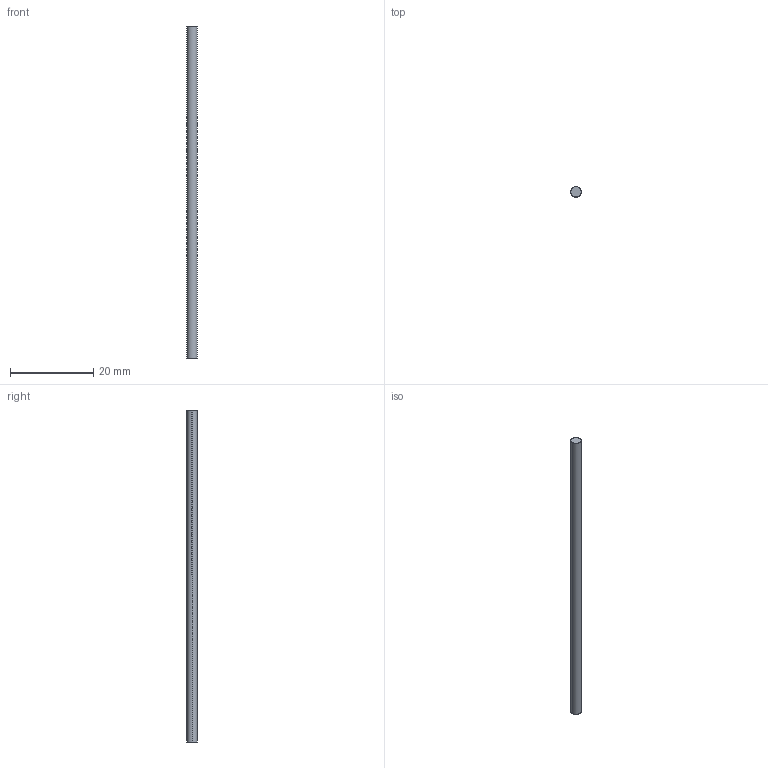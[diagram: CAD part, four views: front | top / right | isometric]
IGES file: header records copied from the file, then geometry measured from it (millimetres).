
Start section: SolidWorks IGES file using analytic representation for surfaces
Global section: file name: Z:\Mes documents\ATAO iges\Gamme CC\CC 473\473.040.10.IGS; native system: SolidWorks 2008; preprocessor: SolidWorks 2008; author: cbrechard; date: 110629.090030; units: millimetre
Bounding box: 2.5 x 2.5 x 80 mm (x, y, z)
Surface area: 638.1 mm2 (no closed solid volume)
Topology: 0 solids, 0 shells, 4 faces, 72 edges, 72 vertices
Faces by surface type: revolution 2, bspline 2
